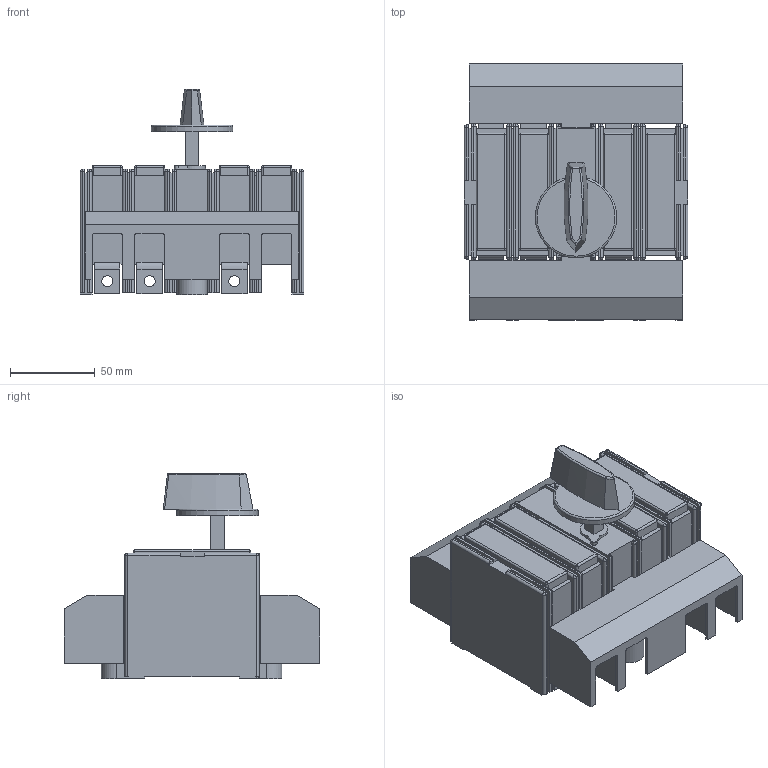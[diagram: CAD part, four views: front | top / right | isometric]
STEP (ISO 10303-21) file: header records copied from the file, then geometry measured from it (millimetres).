
FILE_DESCRIPTION(/* description */ (''),/* implementation_level */ '2;1');
FILE_NAME(/* name */ 'RA100 P3 B z oslona zaciskow.stp',/* time_stamp */ '2021-08-17T12:16:55+02:00',/* author */ (''),/* organization */ (''),/* preprocessor_version */ 'ST-DEVELOPER v18.1',/* originating_system */ 'SIEMENS PLM Software NX 1965',/* authorisation */ '');
FILE_SCHEMA (('FEATURE_BASED_PROCESS_PLANNING','PROCESS_PLANNING_SCHEMA'));
Length unit declared in the file: millimetre
Products named in the file (1): RA100 P3 B z oslona zaciskow_stp
Bounding box: 132 x 151.03 x 121 mm (x, y, z)
Volume: 713146.3 mm3; surface area: 134864.5 mm2
Topology: 3 solids, 3 shells, 500 faces, 1350 edges, 824 vertices
Faces by surface type: plane 310, cylinder 141, sphere 41, bspline 7, torus 1
Full cylindrical faces by diameter (mm): 5.8 x2, 6.5 x6, 10 x2, 11.5 x2, 48 x1
Entity records: 15344 total; most frequent: CARTESIAN_POINT 2826, ORIENTED_EDGE 2574, DIRECTION 2535, EDGE_CURVE 1287, LINE 985, VECTOR 985, VERTEX_POINT 817, AXIS2_PLACEMENT_3D 775
